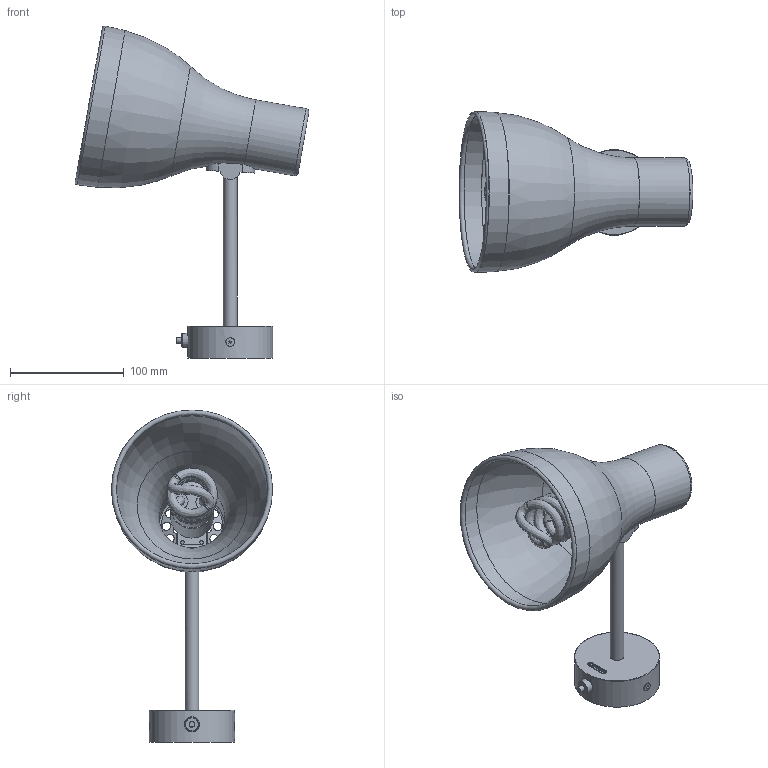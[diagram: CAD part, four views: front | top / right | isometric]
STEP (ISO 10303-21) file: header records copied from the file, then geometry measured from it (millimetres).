
FILE_DESCRIPTION (( 'STEP AP214' ), '1' );
FILE_NAME ('Type75_Wall_Light_STEP_01.STEP', '2014-12-17T11:05:40', ( '' ), ( '' ), 'SwSTEP 2.0', 'SolidWorks 2014', '' );
FILE_SCHEMA (( 'AUTOMOTIVE_DESIGN' ));
Length unit declared in the file: millimetre
Products named in the file (1): Type75_Wall_Light_STEP_01
Bounding box: 205.7 x 141.83 x 292.19 mm (x, y, z)
Volume: 322003.1 mm3; surface area: 176056.3 mm2
Topology: 1 solids, 4 shells, 311 faces, 812 edges, 539 vertices
Faces by surface type: plane 186, cylinder 81, torus 17, bspline 17, cone 8, sphere 2
Full cylindrical faces by diameter (mm): 0.53 x1, 0.653 x1, 3.3 x2, 4 x2, 5 x7, 5.5 x12, 7.5 x12, 7.53 x1, 8 x2, 8.2 x1, 10 x2, 10.2 x1, 12 x1, 13 x1, 13.2 x1, 13.335 x2, 28.575 x1, 37.5 x1, 38.1 x1, 57.97 x1, 59.97 x1, 75 x1, 137.5 x1
Entity records: 18176 total; most frequent: CARTESIAN_POINT 8423, ORIENTED_EDGE 1344, DIRECTION 1254, EDGE_CURVE 672, EDGE_LOOP 506, VERTEX_POINT 486, AXIS2_PLACEMENT_3D 423, VECTOR 408
